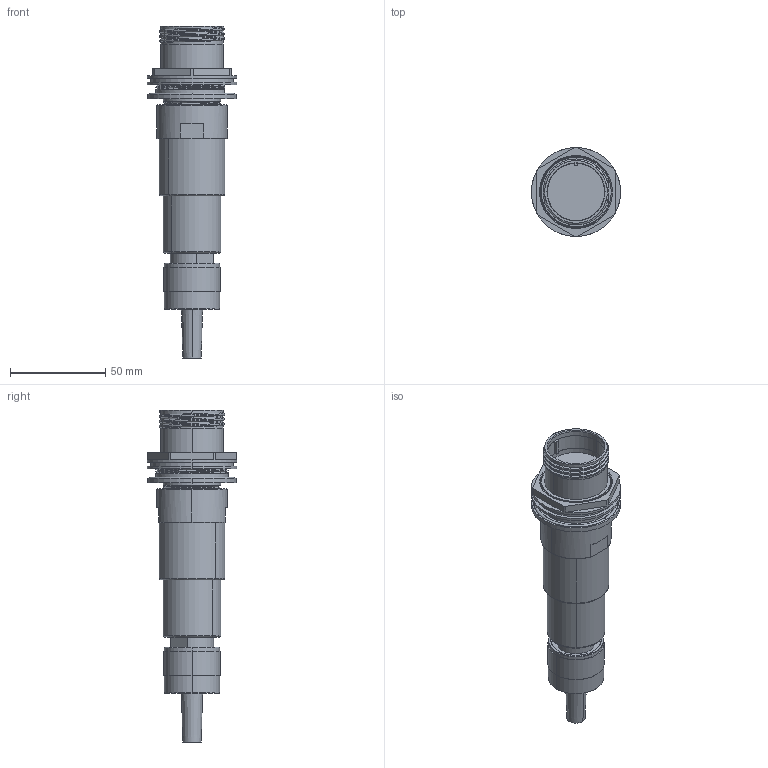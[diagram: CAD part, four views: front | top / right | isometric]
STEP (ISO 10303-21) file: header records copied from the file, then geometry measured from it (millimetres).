
FILE_DESCRIPTION (( 'STEP AP214' ), '1' );
FILE_NAME ('QPLEX3-RJFX-XXXX-SXXX.STEP', '2025-04-07T22:45:09', ( '' ), ( '' ), 'SwSTEP 2.0', 'SolidWorks 2024', '' );
FILE_SCHEMA (( 'AUTOMOTIVE_DESIGN' ));
Length unit declared in the file: inch
Products named in the file (1): QPLEX3-RJFX-XXXX-SXXX
Bounding box: 46.74 x 46.74 x 174.18 mm (x, y, z)
Volume: 120557.4 mm3; surface area: 28689.7 mm2
Topology: 2 solids, 2 shells, 220 faces, 585 edges, 379 vertices
Faces by surface type: cylinder 84, plane 53, bspline 38, torus 27, cone 18
Entity records: 18802 total; most frequent: CARTESIAN_POINT 13801, ORIENTED_EDGE 1170, DIRECTION 927, EDGE_CURVE 585, AXIS2_PLACEMENT_3D 379, VERTEX_POINT 379, EDGE_LOOP 244, FACE_OUTER_BOUND 220
